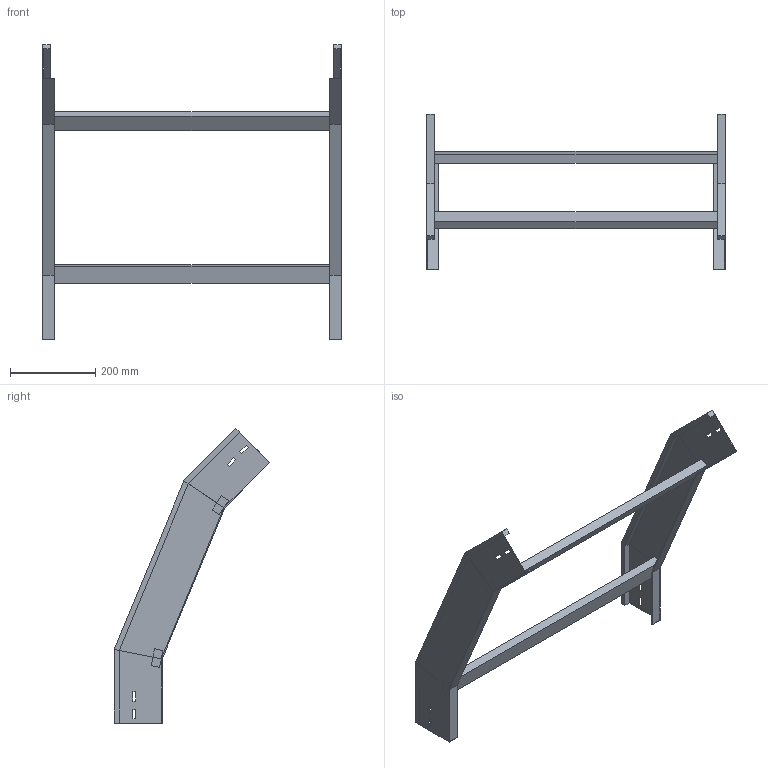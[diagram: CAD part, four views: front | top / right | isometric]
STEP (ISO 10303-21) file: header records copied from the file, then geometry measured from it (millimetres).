
FILE_DESCRIPTION (( 'STEP AP214' ), '1' );
FILE_NAME ('34B5J700.step', '2025-02-21T14:52:53', ( '' ), ( '' ), 'SwSTEP 2.0', 'SolidWorks 2023', '' );
FILE_SCHEMA (( 'AUTOMOTIVE_DESIGN' ));
Length unit declared in the file: millimetre
Products named in the file (3): 34B5J700; LONGH.DISCESA_45°_H112.5_R500; TRAVERSINO_700
Assembly tree (5 placements, depth 2):
  34B5J700
    LONGH.DISCESA_45°_H112.5_R500  x2
    TRAVERSINO_700  x3
Bounding box: 700 x 365.13 x 689.46 mm (x, y, z)
Volume: 2379496.3 mm3; surface area: 708666.6 mm2
Topology: 5 solids, 5 shells, 102 faces, 244 edges, 152 vertices
Faces by surface type: plane 102
Entity records: 1480 total; most frequent: CARTESIAN_POINT 244, ORIENTED_EDGE 232, DIRECTION 228, VECTOR 116, EDGE_CURVE 116, LINE 116, VERTEX_POINT 72, AXIS2_PLACEMENT_3D 56
